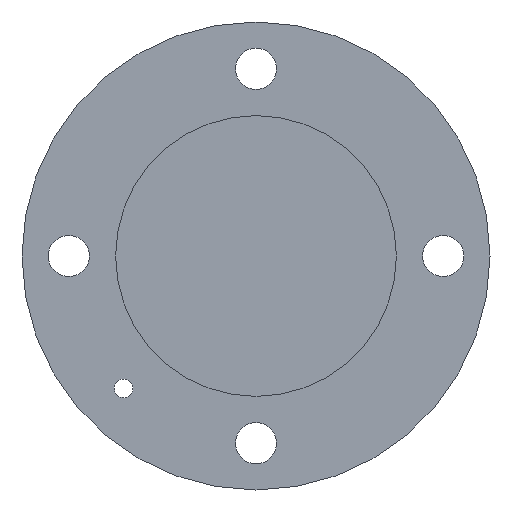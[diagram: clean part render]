
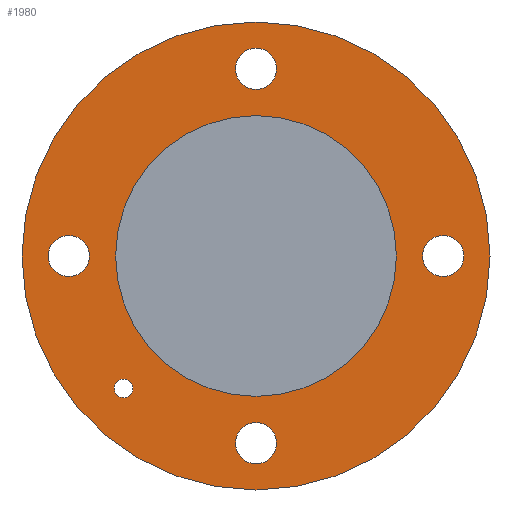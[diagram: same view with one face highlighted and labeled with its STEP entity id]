
A CAD part, left-side view. The second image highlights one B-rep face of the part: STEP entity #1980.
In plain terms, the highlighted planar face has unit normal (-1, 0, 0).
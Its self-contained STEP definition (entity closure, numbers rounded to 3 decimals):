
#81=FACE_BOUND('',#785,.T.);
#82=FACE_BOUND('',#786,.T.);
#83=FACE_BOUND('',#787,.T.);
#84=FACE_BOUND('',#788,.T.);
#85=FACE_BOUND('',#789,.T.);
#86=FACE_BOUND('',#790,.T.);
#611=FACE_OUTER_BOUND('',#784,.T.);
#784=EDGE_LOOP('',(#1704));
#785=EDGE_LOOP('',(#1705));
#786=EDGE_LOOP('',(#1706));
#787=EDGE_LOOP('',(#1707));
#788=EDGE_LOOP('',(#1708));
#789=EDGE_LOOP('',(#1709));
#790=EDGE_LOOP('',(#1710));
#818=CIRCLE('',#2124,0.5);
#820=CIRCLE('',#2127,1.1);
#822=CIRCLE('',#2130,1.1);
#824=CIRCLE('',#2133,1.1);
#826=CIRCLE('',#2136,1.1);
#831=CIRCLE('',#2145,12.5);
#832=CIRCLE('',#2147,7.5);
#978=VERTEX_POINT('',#3169);
#980=VERTEX_POINT('',#3174);
#982=VERTEX_POINT('',#3179);
#984=VERTEX_POINT('',#3184);
#986=VERTEX_POINT('',#3189);
#991=VERTEX_POINT('',#3203);
#992=VERTEX_POINT('',#3206);
#1218=EDGE_CURVE('',#978,#978,#818,.T.);
#1220=EDGE_CURVE('',#980,#980,#820,.T.);
#1222=EDGE_CURVE('',#982,#982,#822,.T.);
#1224=EDGE_CURVE('',#984,#984,#824,.T.);
#1226=EDGE_CURVE('',#986,#986,#826,.T.);
#1231=EDGE_CURVE('',#991,#991,#831,.T.);
#1232=EDGE_CURVE('',#992,#992,#832,.T.);
#1704=ORIENTED_EDGE('',*,*,#1231,.T.);
#1705=ORIENTED_EDGE('',*,*,#1218,.T.);
#1706=ORIENTED_EDGE('',*,*,#1220,.T.);
#1707=ORIENTED_EDGE('',*,*,#1222,.T.);
#1708=ORIENTED_EDGE('',*,*,#1224,.T.);
#1709=ORIENTED_EDGE('',*,*,#1226,.T.);
#1710=ORIENTED_EDGE('',*,*,#1232,.F.);
#1818=PLANE('',#2146);
#1980=ADVANCED_FACE('',(#611,#81,#82,#83,#84,#85,#86),#1818,.T.);
#2124=AXIS2_PLACEMENT_3D('',#3170,#2631,#2632);
#2127=AXIS2_PLACEMENT_3D('',#3175,#2637,#2638);
#2130=AXIS2_PLACEMENT_3D('',#3180,#2643,#2644);
#2133=AXIS2_PLACEMENT_3D('',#3185,#2649,#2650);
#2136=AXIS2_PLACEMENT_3D('',#3190,#2655,#2656);
#2145=AXIS2_PLACEMENT_3D('',#3204,#2673,#2674);
#2146=AXIS2_PLACEMENT_3D('',#3205,#2675,#2676);
#2147=AXIS2_PLACEMENT_3D('',#3207,#2677,#2678);
#2631=DIRECTION('center_axis',(1.,0.,0.));
#2632=DIRECTION('ref_axis',(0.,0.,-1.));
#2637=DIRECTION('center_axis',(1.,0.,0.));
#2638=DIRECTION('ref_axis',(0.,1.,0.));
#2643=DIRECTION('center_axis',(1.,0.,0.));
#2644=DIRECTION('ref_axis',(0.,0.,1.));
#2649=DIRECTION('center_axis',(1.,0.,0.));
#2650=DIRECTION('ref_axis',(0.,-1.,0.));
#2655=DIRECTION('center_axis',(1.,0.,0.));
#2656=DIRECTION('ref_axis',(0.,0.,-1.));
#2673=DIRECTION('center_axis',(-1.,0.,0.));
#2674=DIRECTION('ref_axis',(0.,0.,1.));
#2675=DIRECTION('center_axis',(-1.,0.,0.));
#2676=DIRECTION('ref_axis',(0.,0.,1.));
#2677=DIRECTION('center_axis',(-1.,0.,0.));
#2678=DIRECTION('ref_axis',(0.,0.,1.));
#3169=CARTESIAN_POINT('',(-2.,7.071,-6.571));
#3170=CARTESIAN_POINT('Origin',(-2.,7.071,-7.071));
#3174=CARTESIAN_POINT('',(-2.,-1.1,10.));
#3175=CARTESIAN_POINT('Origin',(-2.,0.,10.));
#3179=CARTESIAN_POINT('',(-2.,-10.,-1.1));
#3180=CARTESIAN_POINT('Origin',(-2.,-10.,0.));
#3184=CARTESIAN_POINT('',(-2.,1.1,-10.));
#3185=CARTESIAN_POINT('Origin',(-2.,0.,-10.));
#3189=CARTESIAN_POINT('',(-2.,10.,1.1));
#3190=CARTESIAN_POINT('Origin',(-2.,10.,0.));
#3203=CARTESIAN_POINT('',(-2.,0.,12.5));
#3204=CARTESIAN_POINT('Origin',(-2.,0.,0.));
#3205=CARTESIAN_POINT('Origin',(-2.,0.,10.));
#3206=CARTESIAN_POINT('',(-2.,0.,7.5));
#3207=CARTESIAN_POINT('Origin',(-2.,0.,0.));
